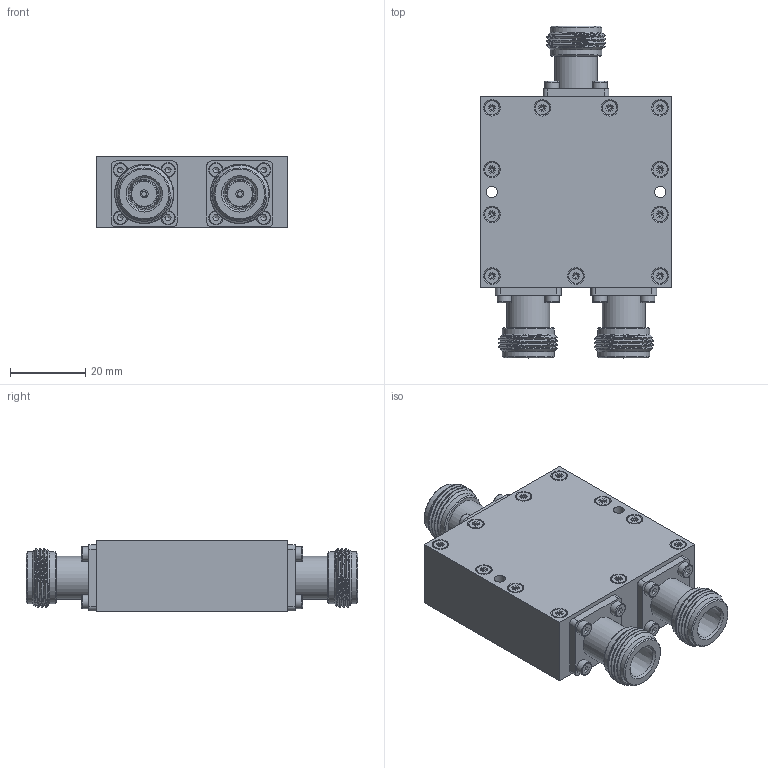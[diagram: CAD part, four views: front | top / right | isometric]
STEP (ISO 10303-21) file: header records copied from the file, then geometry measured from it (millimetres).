
FILE_DESCRIPTION(/* description */ ('Unknown'),/* implementation_level */ '2;1');
FILE_NAME(/* name */ 'DETI_MICROWAVE_2-WAY_POWER_DIVIDER__STEP',/* time_stamp */ '2021-06-28T17:13:46+02:00',/* author */ ('ALG'),/* organization */ ('DETI'),/* preprocessor_version */ 'ST-DEVELOPER v16.7',/* originating_system */ 'Solid Edge',/* authorisation */ 'Unknown');
FILE_SCHEMA (('AUTOMOTIVE_DESIGN {1 0 10303 214 3 1 1}'));
Length unit declared in the file: millimetre
Products named in the file (1): DI-2-1700-2100-50-NF-NF2
Bounding box: 50.8 x 88.2 x 19 mm (x, y, z)
Volume: 33420.4 mm3; surface area: 22218.6 mm2
Topology: 1 solids, 41 shells, 768 faces, 2014 edges, 1348 vertices
Faces by surface type: plane 508, cylinder 136, cone 83, torus 23, bspline 18
Full cylindrical faces by diameter (mm): 1.567 x28, 2 x23, 2.2 x11, 3 x2, 3.2 x12, 3.8 x23, 4.1 x6, 7.851 x3, 11.4 x3, 13.8 x6
Entity records: 29946 total; most frequent: CARTESIAN_POINT 7991, DIRECTION 3332, ORIENTED_EDGE 3315, EDGE_CURVE 1677, VERTEX_POINT 1266, LINE 1150, VECTOR 1150, FACE_BOUND 1121
